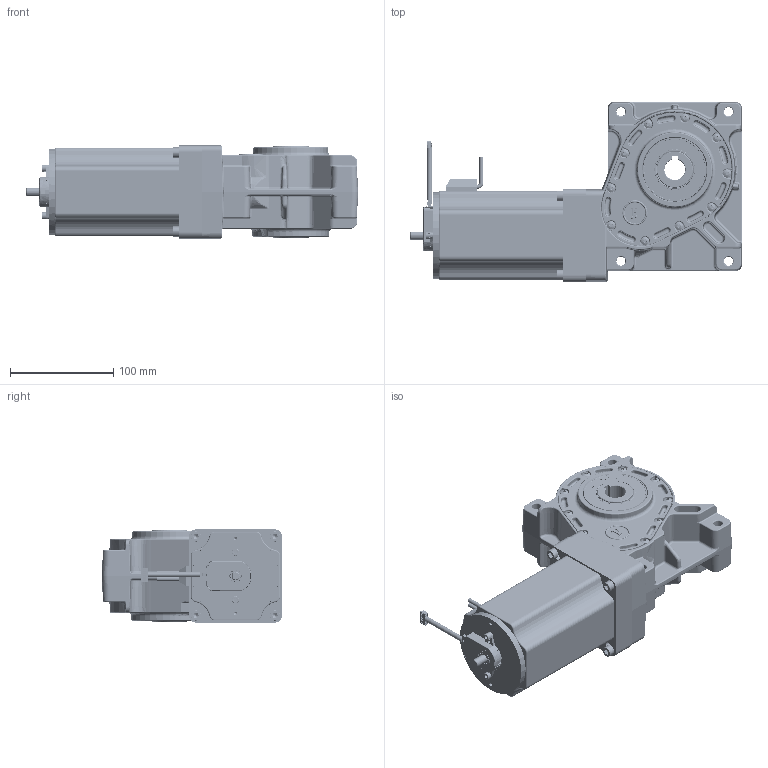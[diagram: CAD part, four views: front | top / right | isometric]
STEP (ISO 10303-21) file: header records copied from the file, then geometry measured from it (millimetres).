
FILE_DESCRIPTION (( 'STEP AP214' ), '1' );
FILE_NAME ('PBL86-80-GB65 - Encoder.STEP', '2024-09-16T10:42:56', ( '' ), ( '' ), 'SwSTEP 2.0', 'SolidWorks 2023', '' );
FILE_SCHEMA (( 'AUTOMOTIVE_DESIGN' ));
Length unit declared in the file: millimetre
Products named in the file (1): PBL86-80-GB65 - Encoder
Bounding box: 320.95 x 174.1 x 90 mm (x, y, z)
Surface area: 402347.5 mm2 (no closed solid volume)
Topology: 0 solids, 84 shells, 7533 faces, 19341 edges, 11986 vertices
Faces by surface type: plane 2543, cylinder 2032, bspline 1316, cone 778, torus 708, sphere 156
Entity records: 386772 total; most frequent: CARTESIAN_POINT 138243, ORIENTED_EDGE 38084, DIRECTION 29363, EDGE_CURVE 19044, VERTEX_POINT 11966, AXIS2_PLACEMENT_3D 11909, EDGE_LOOP 8092, UNCERTAINTY_MEASURE_WITH_UNIT 7589
